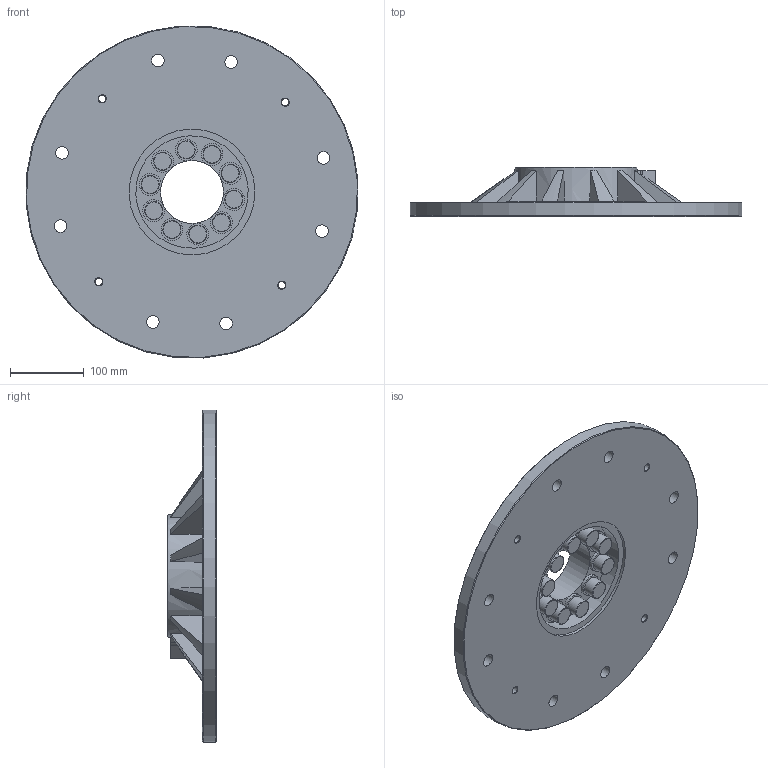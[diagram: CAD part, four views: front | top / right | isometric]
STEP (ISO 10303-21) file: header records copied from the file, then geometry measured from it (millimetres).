
FILE_DESCRIPTION(/* description */ (''),/* implementation_level */ '2;1');
FILE_NAME(/* name */ 'K1000-J3.step',/* time_stamp */ '2024-01-26T10:00:45-07:00',/* author */ (''),/* organization */ (''),/* preprocessor_version */ 'ST-DEVELOPER v20',/* originating_system */ 'Autodesk Translation Framework v12.14.0.127',/* authorisation */ '');
FILE_SCHEMA (('AUTOMOTIVE_DESIGN { 1 0 10303 214 3 1 1 }'));
Length unit declared in the file: millimetre
Products named in the file (1): J3
Bounding box: 448.96 x 66 x 448.96 mm (x, y, z)
Volume: 2707043.9 mm3; surface area: 479827.9 mm2
Topology: 1 solids, 1 shells, 211 faces, 526 edges, 349 vertices
Faces by surface type: plane 100, cone 54, cylinder 47, torus 10
Full cylindrical faces by diameter (mm): 10 x4, 17 x8, 24.33 x10, 29.6 x10, 34 x8, 85 x1, 140 x1, 152 x1, 170 x1, 450 x1
Entity records: 6749 total; most frequent: CARTESIAN_POINT 1347, DIRECTION 1098, ORIENTED_EDGE 1052, EDGE_CURVE 526, AXIS2_PLACEMENT_3D 454, VERTEX_POINT 349, EDGE_LOOP 269, CIRCLE 240
